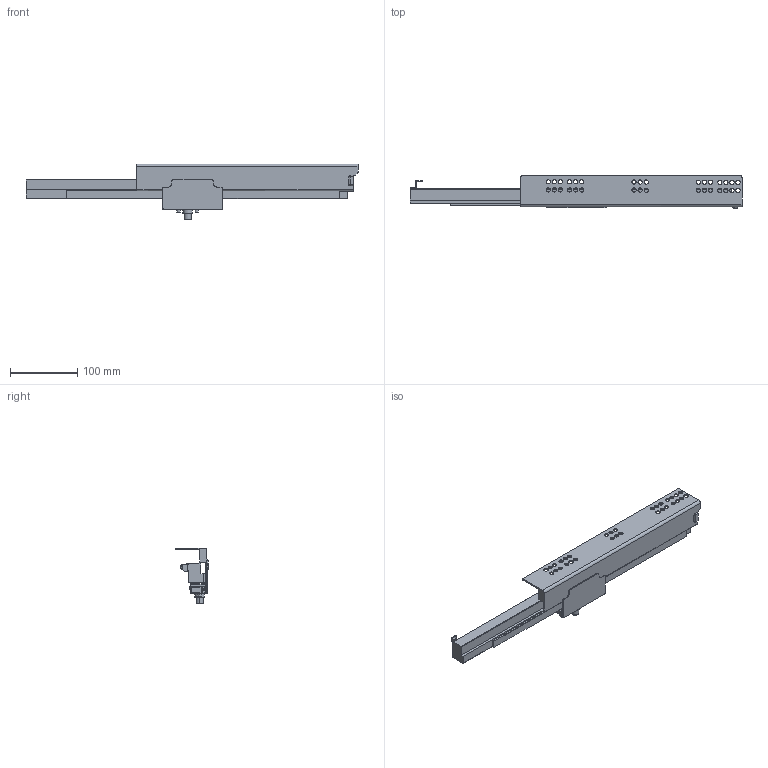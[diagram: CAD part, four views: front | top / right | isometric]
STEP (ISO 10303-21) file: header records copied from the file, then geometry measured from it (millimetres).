
FILE_DESCRIPTION (( 'STEP AP203' ), '1' );
FILE_NAME ('TF10500H-L-DTC3D-close.STEP', '2021-06-03T01:44:23', ( 'df' ), ( 'Microsoft' ), 'SwSTEP 2.0', 'SolidWorks 2018', '' );
FILE_SCHEMA (( 'CONFIG_CONTROL_DESIGN' ));
Length unit declared in the file: millimetre
Products named in the file (1): TF10500H-L-DTC3D-close
Bounding box: 495.27 x 48 x 83.3 mm (x, y, z)
Volume: 399708.7 mm3; surface area: 118348.2 mm2
Topology: 1 solids, 4 shells, 499 faces, 1291 edges, 800 vertices
Faces by surface type: cylinder 238, plane 157, bspline 104
Entity records: 18850 total; most frequent: CARTESIAN_POINT 7324, ORIENTED_EDGE 2564, DIRECTION 2146, EDGE_CURVE 1282, VERTEX_POINT 800, AXIS2_PLACEMENT_3D 761, LINE 624, VECTOR 624
